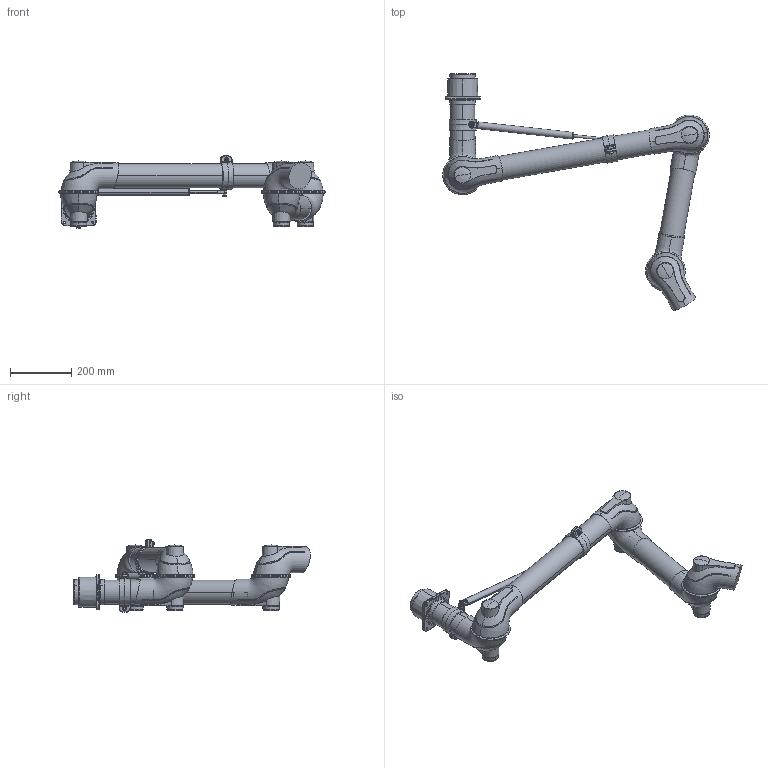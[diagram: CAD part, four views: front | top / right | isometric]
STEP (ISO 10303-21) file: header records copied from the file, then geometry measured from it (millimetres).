
FILE_DESCRIPTION((''),'2;1');
FILE_NAME('102345','2015-10-05T',('Tomas Bellgran'),(''),'PRO/ENGINEER BY PARAMETRIC TECHNOLOGY CORPORATION, 2013410','PRO/ENGINEER BY PARAMETRIC TECHNOLOGY CORPORATION, 2013410','');
FILE_SCHEMA(('AUTOMOTIVE_DESIGN { 1 0 10303 214 1 1 1 1 }'));
Length unit declared in the file: millimetre
Products named in the file (30): 100350; 100455; 102184; 105-5475-01; 102320; 9529063; 102182; 102327; 102187; 102316; 105-5475-02; 105-5481; 101156; 102312; 105-561-01; 105-562-01; 9900438; 105-560-01; 9900055; GAS_SPRING_BANBACH_CYLB; GAS_SPRING_BANBACH-TUBE_AF0; 100342; GAS_SPRING_BANBACH_ROD; GAS_SPRING_BANBACH_RODHEAD; 100342-REF; LOCK_NUT_M8_DIN985; LOCK_NUT_M8_DIN985_PL; 100107; 9924051; 102345
Assembly tree (43 placements, depth 4):
  102345
    102320
      100350
      100455  x2
      102184
      105-5475-01
    9529063
    102327
      105-5475-01  x2
      102182
    102316
      102187
      105-5475-01
    102312
      105-5475-02  x2
      9529063
      101156
        105-5481
    101156  x2
      105-5481
    105-560-01  x2
      105-561-01
      105-562-01
      9900438
    9900055  x4
    100342
      GAS_SPRING_BANBACH_CYLB
      GAS_SPRING_BANBACH-TUBE_AF0
    100342-REF
      GAS_SPRING_BANBACH_ROD
      GAS_SPRING_BANBACH_RODHEAD
    100107  x2
      LOCK_NUT_M8_DIN985
      LOCK_NUT_M8_DIN985_PL
    9924051  x2
Bounding box: 868.12 x 770.85 x 235.4 mm (x, y, z)
Volume: 13021381.9 mm3; surface area: 1017790.2 mm2
Topology: 37 solids, 38 shells, 1108 faces, 2708 edges, 1689 vertices
Faces by surface type: plane 326, cone 287, bspline 256, cylinder 128, torus 86, sphere 25
Entity records: 58596 total; most frequent: CARTESIAN_POINT 30491, ORIENTED_EDGE 2906, DIRECTION 2442, PRESENTATION_STYLE_ASSIGNMENT 1789, STYLED_ITEM 1784, EDGE_CURVE 1453, CURVE_STYLE 1429, PROPERTY_DEFINITION 1358
